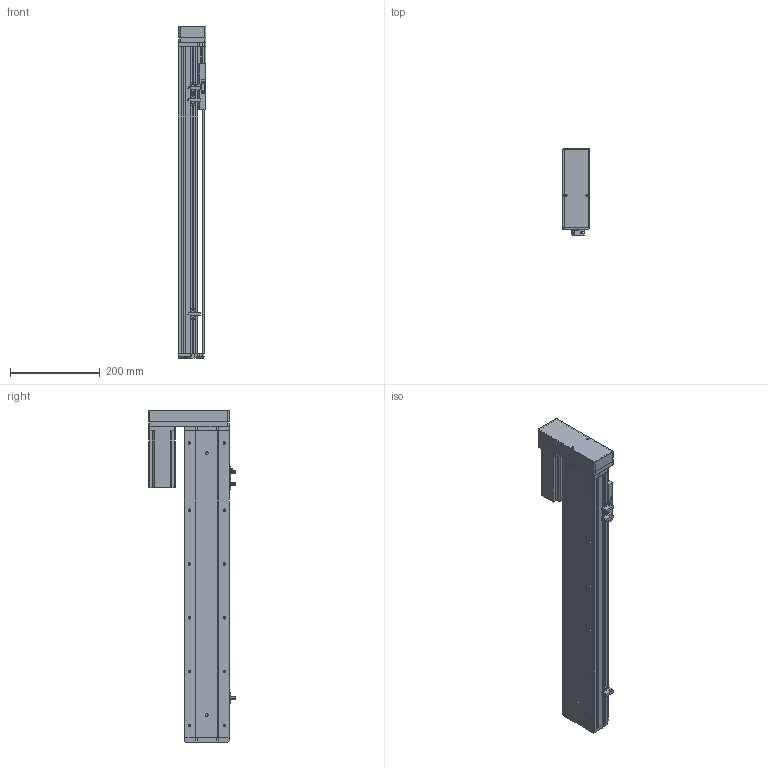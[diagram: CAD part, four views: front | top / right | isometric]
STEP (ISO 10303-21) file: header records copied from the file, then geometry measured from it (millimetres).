
FILE_DESCRIPTION (( 'STEP AP214' ), '1' );
FILE_NAME ('KSD100S-S500-ML-CM.STEP', '2019-08-30T06:11:13', ( '微软用户' ), ( '微软中国' ), 'SwSTEP 2.0', 'SolidWorks 2014', '' );
FILE_SCHEMA (( 'AUTOMOTIVE_DESIGN' ));
Length unit declared in the file: millimetre
Products named in the file (11): 100遵鎮湛假蚾啣; 100宽滚珠螺姆安装板半封闭; 100遵傷啣; 100宽底板半封闭丝杆500行程; KSD100S-S500-ML-CM; 悵誘欶酘衵殏; 台达ECMA－C20604AS伺服电机; 100宽马达安装板连板左右折丝杆; U倰嫖萇EEㄜSX672; 覜茼え100遵圉猾敕; 100宽防尘板丝杆500行程
Assembly tree (12 placements, depth 2):
  KSD100S-S500-ML-CM
    100宽底板半封闭丝杆500行程
    100遵傷啣
    100宽滚珠螺姆安装板半封闭
    100遵鎮湛假蚾啣
    100宽防尘板丝杆500行程
    覜茼え100遵圉猾敕
    U倰嫖萇EEㄜSX672  x3
    100宽马达安装板连板左右折丝杆
    台达ECMA－C20604AS伺服电机
    悵誘欶酘衵殏
Bounding box: 62 x 193.7 x 740.5 mm (x, y, z)
Volume: 2005458.6 mm3; surface area: 628466.1 mm2
Topology: 13 solids, 13 shells, 1191 faces, 3346 edges, 2131 vertices
Faces by surface type: cylinder 576, plane 500, cone 115
Entity records: 40675 total; most frequent: CARTESIAN_POINT 7639, DIRECTION 5597, ORIENTED_EDGE 5368, EDGE_CURVE 2684, AXIS2_PLACEMENT_3D 2029, VERTEX_POINT 1755, LINE 1539, VECTOR 1539
